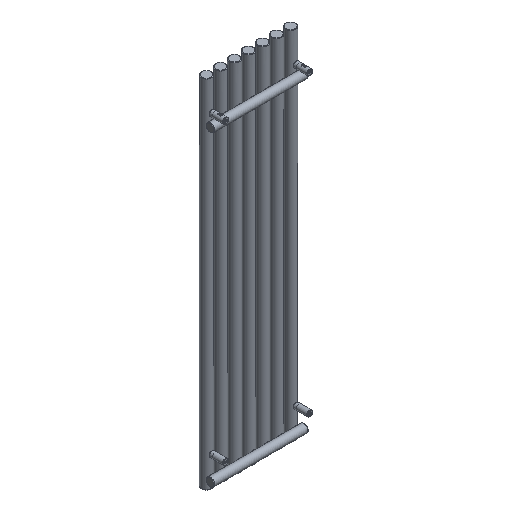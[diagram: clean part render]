
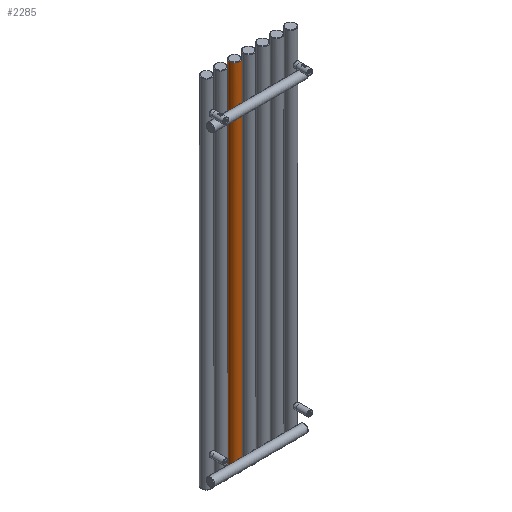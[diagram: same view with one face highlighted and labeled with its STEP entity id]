
A CAD part, isometric view. The second image highlights one B-rep face of the part: STEP entity #2285.
In plain terms, the highlighted cylindrical face has radius 20 mm (diameter 40 mm), a full revolution.
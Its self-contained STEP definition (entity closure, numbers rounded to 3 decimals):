
#179=FACE_BOUND('',#565,.T.);
#180=FACE_BOUND('',#566,.T.);
#215=LINE('',#4325,#291);
#291=VECTOR('',#2843,20.);
#367=CYLINDRICAL_SURFACE('',#2489,20.);
#403=FACE_OUTER_BOUND('',#564,.T.);
#564=EDGE_LOOP('',(#1608,#1609,#1610,#1611,#1612));
#565=EDGE_LOOP('',(#1613));
#566=EDGE_LOOP('',(#1614));
#752=B_SPLINE_CURVE_WITH_KNOTS('',3,(#4299,#4300,#4301,#4302,#4303,#4304,
#4305,#4306,#4307,#4308,#4309,#4310,#4311,#4312,#4313,#4314,#4315,#4316,
#4317,#4318,#4319),.UNSPECIFIED.,.T.,.F.,(4,1,1,1,1,1,1,1,1,1,1,1,1,1,1,
1,1,1,4),(-5.132,-4.765,-4.399,-4.154,
-3.91,-3.788,-3.666,-3.421,
-3.177,-2.933,-2.688,-2.199,
-1.955,-1.711,-1.466,-1.1,
-0.733,-0.367,0.),.UNSPECIFIED.);
#753=B_SPLINE_CURVE_WITH_KNOTS('',3,(#4329,#4330,#4331,#4332,#4333,#4334,
#4335,#4336,#4337,#4338,#4339,#4340,#4341,#4342,#4343,#4344,#4345,#4346,
#4347,#4348),.UNSPECIFIED.,.T.,.F.,(4,1,1,1,1,1,1,1,1,1,1,1,1,1,1,1,1,4),
(-5.132,-4.765,-4.399,-4.154,
-3.91,-3.666,-3.421,-3.177,-2.933,
-2.444,-2.199,-1.955,-1.711,-1.466,
-1.1,-0.733,-0.367,0.),
 .UNSPECIFIED.);
#815=CIRCLE('',#2490,20.);
#816=CIRCLE('',#2491,20.);
#817=CIRCLE('',#2492,20.);
#1006=VERTEX_POINT('',#4297);
#1007=VERTEX_POINT('',#4321);
#1008=VERTEX_POINT('',#4322);
#1009=VERTEX_POINT('',#4324);
#1010=VERTEX_POINT('',#4328);
#1248=EDGE_CURVE('',#1006,#1006,#752,.T.);
#1249=EDGE_CURVE('',#1007,#1008,#815,.T.);
#1250=EDGE_CURVE('',#1007,#1009,#215,.T.);
#1251=EDGE_CURVE('',#1009,#1009,#816,.T.);
#1252=EDGE_CURVE('',#1008,#1007,#817,.T.);
#1253=EDGE_CURVE('',#1010,#1010,#753,.T.);
#1608=ORIENTED_EDGE('',*,*,#1249,.F.);
#1609=ORIENTED_EDGE('',*,*,#1250,.T.);
#1610=ORIENTED_EDGE('',*,*,#1251,.F.);
#1611=ORIENTED_EDGE('',*,*,#1250,.F.);
#1612=ORIENTED_EDGE('',*,*,#1252,.F.);
#1613=ORIENTED_EDGE('',*,*,#1253,.F.);
#1614=ORIENTED_EDGE('',*,*,#1248,.F.);
#2285=ADVANCED_FACE('',(#403,#179,#180),#367,.T.);
#2489=AXIS2_PLACEMENT_3D('',#4320,#2839,#2840);
#2490=AXIS2_PLACEMENT_3D('',#4323,#2841,#2842);
#2491=AXIS2_PLACEMENT_3D('',#4326,#2844,#2845);
#2492=AXIS2_PLACEMENT_3D('',#4327,#2846,#2847);
#2839=DIRECTION('center_axis',(0.,0.,1.));
#2840=DIRECTION('ref_axis',(-1.,0.,0.));
#2841=DIRECTION('center_axis',(0.,0.,1.));
#2842=DIRECTION('ref_axis',(-1.,0.,0.));
#2843=DIRECTION('',(0.,0.,-1.));
#2844=DIRECTION('center_axis',(0.,0.,-1.));
#2845=DIRECTION('ref_axis',(-1.,0.,0.));
#2846=DIRECTION('center_axis',(0.,0.,1.));
#2847=DIRECTION('ref_axis',(-1.,0.,0.));
#4297=CARTESIAN_POINT('',(-220.,-20.,50.1));
#4299=CARTESIAN_POINT('Ctrl Pts',(-220.,-20.,50.1));
#4300=CARTESIAN_POINT('Ctrl Pts',(-221.611,-20.,50.1));
#4301=CARTESIAN_POINT('Ctrl Pts',(-224.838,-19.598,49.587));
#4302=CARTESIAN_POINT('Ctrl Pts',(-228.411,-18.224,47.307));
#4303=CARTESIAN_POINT('Ctrl Pts',(-230.379,-17.114,44.115));
#4304=CARTESIAN_POINT('Ctrl Pts',(-230.993,-16.707,41.396));
#4305=CARTESIAN_POINT('Ctrl Pts',(-230.992,-16.708,39.163));
#4306=CARTESIAN_POINT('Ctrl Pts',(-230.666,-16.92,36.968));
#4307=CARTESIAN_POINT('Ctrl Pts',(-229.649,-17.552,34.429));
#4308=CARTESIAN_POINT('Ctrl Pts',(-227.534,-18.592,32.083));
#4309=CARTESIAN_POINT('Ctrl Pts',(-224.761,-19.504,30.58));
#4310=CARTESIAN_POINT('Ctrl Pts',(-220.581,-20.198,29.637));
#4311=CARTESIAN_POINT('Ctrl Pts',(-216.165,-19.824,30.09));
#4312=CARTESIAN_POINT('Ctrl Pts',(-212.466,-18.588,32.082));
#4313=CARTESIAN_POINT('Ctrl Pts',(-210.351,-17.556,34.43));
#4314=CARTESIAN_POINT('Ctrl Pts',(-208.927,-16.66,37.98));
#4315=CARTESIAN_POINT('Ctrl Pts',(-208.922,-16.66,42.599));
#4316=CARTESIAN_POINT('Ctrl Pts',(-211.137,-18.052,47.027));
#4317=CARTESIAN_POINT('Ctrl Pts',(-215.165,-19.6,49.585));
#4318=CARTESIAN_POINT('Ctrl Pts',(-218.389,-20.,50.1));
#4319=CARTESIAN_POINT('Ctrl Pts',(-220.,-20.,50.1));
#4320=CARTESIAN_POINT('Origin',(-220.,0.,0.));
#4321=CARTESIAN_POINT('',(-200.,0.,1398.));
#4322=CARTESIAN_POINT('',(-240.,0.,1398.));
#4323=CARTESIAN_POINT('Origin',(-220.,0.,1398.));
#4324=CARTESIAN_POINT('',(-200.,0.,2.));
#4325=CARTESIAN_POINT('',(-200.,0.,0.));
#4326=CARTESIAN_POINT('Origin',(-220.,0.,2.));
#4327=CARTESIAN_POINT('Origin',(-220.,0.,1398.));
#4328=CARTESIAN_POINT('',(-220.,-20.,1255.1));
#4329=CARTESIAN_POINT('Ctrl Pts',(-220.,-20.,1255.1));
#4330=CARTESIAN_POINT('Ctrl Pts',(-221.611,-20.,1255.1));
#4331=CARTESIAN_POINT('Ctrl Pts',(-224.838,-19.598,1254.588));
#4332=CARTESIAN_POINT('Ctrl Pts',(-228.412,-18.225,1252.308));
#4333=CARTESIAN_POINT('Ctrl Pts',(-230.38,-17.114,1249.116));
#4334=CARTESIAN_POINT('Ctrl Pts',(-231.116,-16.626,1245.853));
#4335=CARTESIAN_POINT('Ctrl Pts',(-230.87,-16.793,1242.475));
#4336=CARTESIAN_POINT('Ctrl Pts',(-229.65,-17.555,1239.43));
#4337=CARTESIAN_POINT('Ctrl Pts',(-227.535,-18.589,1237.082));
#4338=CARTESIAN_POINT('Ctrl Pts',(-223.836,-19.821,1235.088));
#4339=CARTESIAN_POINT('Ctrl Pts',(-219.419,-20.203,1234.641));
#4340=CARTESIAN_POINT('Ctrl Pts',(-215.24,-19.504,1235.58));
#4341=CARTESIAN_POINT('Ctrl Pts',(-212.467,-18.593,1237.084));
#4342=CARTESIAN_POINT('Ctrl Pts',(-210.351,-17.554,1239.428));
#4343=CARTESIAN_POINT('Ctrl Pts',(-208.928,-16.664,1242.98));
#4344=CARTESIAN_POINT('Ctrl Pts',(-208.923,-16.659,1247.598));
#4345=CARTESIAN_POINT('Ctrl Pts',(-211.135,-18.048,1252.029));
#4346=CARTESIAN_POINT('Ctrl Pts',(-215.165,-19.6,1254.585));
#4347=CARTESIAN_POINT('Ctrl Pts',(-218.389,-20.,1255.1));
#4348=CARTESIAN_POINT('Ctrl Pts',(-220.,-20.,1255.1));
